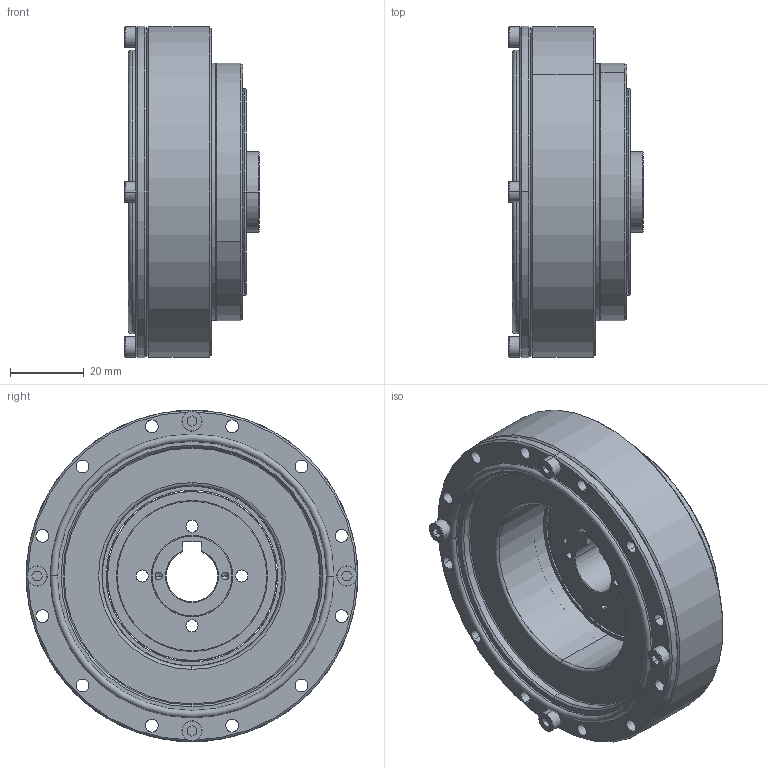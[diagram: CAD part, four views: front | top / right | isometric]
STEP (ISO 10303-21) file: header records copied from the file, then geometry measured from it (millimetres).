
FILE_DESCRIPTION (( 'STEP AP214' ), '1' );
FILE_NAME ('FHG-20-XXX-SJ.STEP', '2023-01-17T03:26:06', ( '微软用户' ), ( '微软中国' ), 'SwSTEP 2.0', 'SolidWorks 2016', '' );
FILE_SCHEMA (( 'AUTOMOTIVE_DESIGN' ));
Length unit declared in the file: millimetre
Products named in the file (1): FHG-20-XXX-SJ
Bounding box: 36.5 x 90 x 90 mm (x, y, z)
Volume: 99278.8 mm3; surface area: 81346.3 mm2
Topology: 44 solids, 44 shells, 1099 faces, 2750 edges, 1715 vertices
Faces by surface type: cylinder 460, plane 339, cone 138, torus 110, sphere 46, bspline 6
Entity records: 45380 total; most frequent: CARTESIAN_POINT 6452, DIRECTION 5896, ORIENTED_EDGE 5166, EDGE_CURVE 2583, AXIS2_PLACEMENT_3D 2322, VERTEX_POINT 1646, EDGE_LOOP 1303, VECTOR 1252
